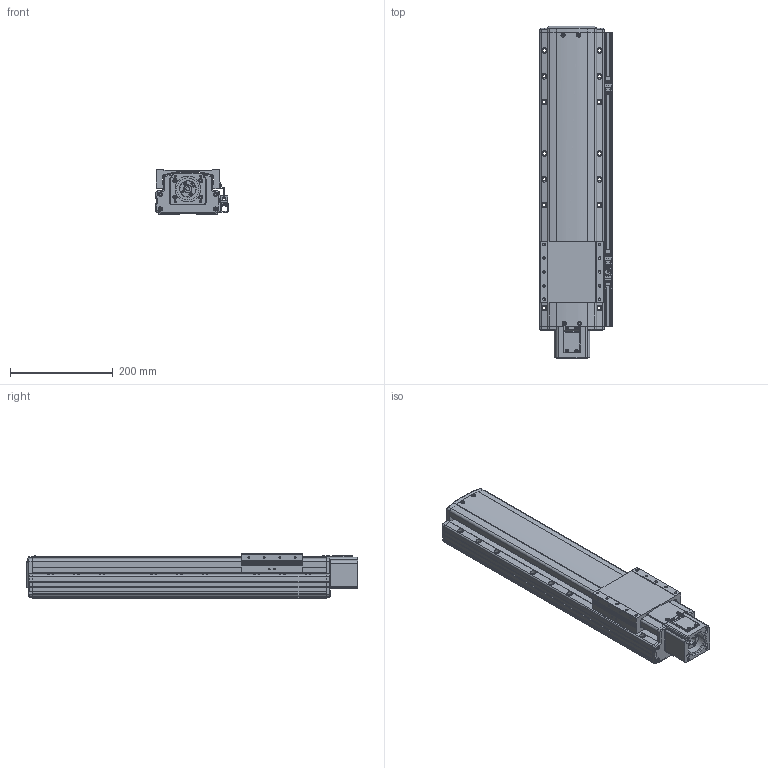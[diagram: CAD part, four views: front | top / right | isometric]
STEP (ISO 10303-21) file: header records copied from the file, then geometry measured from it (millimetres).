
FILE_DESCRIPTION(('STEP AP214'),'1');
FILE_NAME('Z:/Web/3D/PSA125/STP/PSA125-350 (3D)/PSA125ㅁㅁ-350S+3SR.stp','2014-06-22T23:54:58',(' '),(' '),'Spatial InterOp 3D',' ',' ');
FILE_SCHEMA(('automotive_design'));
Length unit declared in the file: millimetre
Products named in the file (53): 스크루 : Round - M4.0 x 10.0; RRCV-PA120; SLIDE; BASE; FRCV-PA120-1(기준 뿔 제거); RR1500; 스크루 : Round - M4.0 x 6.0; 너트 : Square - M10.0 x 220.7419; SSFX-SAN65; CPLCV-SAN65; 스크루 : Round - M3.0 x 6.0; MTHZ-PA120-S60A-3; 스크루 : Socket - M4.0 x 20.0; FRCV; NONE; EE-SX674; SBK-SX674-352; M3.0 x 6.0; SRL-16x17-380L; SGD-PA95; 스크루 : Round - M3.0 x 8.0
Bounding box: 141 x 644.6 x 86 mm (x, y, z)
Volume: 5236314.9 mm3; surface area: 580787.5 mm2
Topology: 53 solids, 87 shells, 3647 faces, 9354 edges, 5924 vertices
Faces by surface type: plane 1818, cylinder 1095, cone 449, torus 174, sphere 70, bspline 41
Entity records: 143746 total; most frequent: CARTESIAN_POINT 23353, DIRECTION 19608, ORIENTED_EDGE 18396, EDGE_CURVE 9198, AXIS2_PLACEMENT_3D 6999, VERTEX_POINT 5924, LINE 5610, VECTOR 5610
